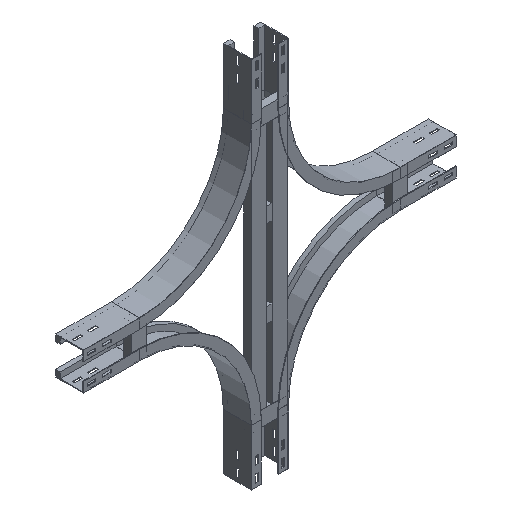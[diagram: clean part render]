
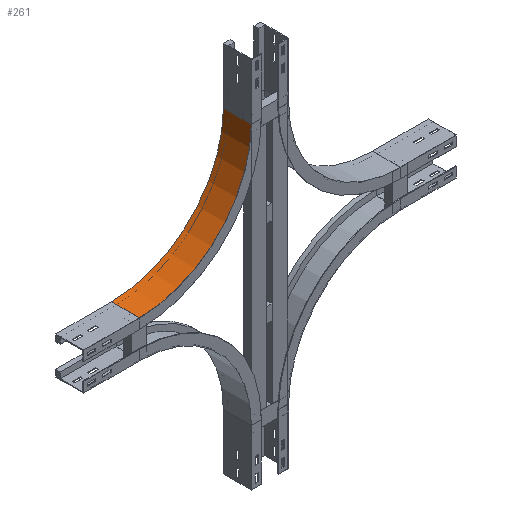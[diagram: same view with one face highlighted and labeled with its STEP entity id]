
A CAD part, isometric view. The second image highlights one B-rep face of the part: STEP entity #261.
In plain terms, the highlighted cylindrical face has radius 300 mm (diameter 600 mm), a partial arc.
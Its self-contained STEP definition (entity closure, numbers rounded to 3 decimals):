
#6 = DIRECTION ( 'NONE',  ( 0., 1., 0. ) ) ;
#10 = DIRECTION ( 'NONE',  ( 0., 0., -1. ) ) ;
#45 = CARTESIAN_POINT ( 'NONE',  ( 0., 0., -150. ) ) ;
#56 = EDGE_LOOP ( 'NONE', ( #564, #1505, #1804, #1755 ) ) ;
#261 = ADVANCED_FACE ( 'NONE', ( #2094 ), #346, .F. ) ;
#327 = CARTESIAN_POINT ( 'NONE',  ( 300., 0., -450. ) ) ;
#346 = CYLINDRICAL_SURFACE ( 'NONE', #615, 300. ) ;
#564 = ORIENTED_EDGE ( 'NONE', *, *, #2318, .F. ) ;
#608 = CARTESIAN_POINT ( 'NONE',  ( 0., 0., -150. ) ) ;
#615 = AXIS2_PLACEMENT_3D ( 'NONE', #1918, #947, #10 ) ;
#749 = AXIS2_PLACEMENT_3D ( 'NONE', #2272, #2087, #1517 ) ;
#758 = LINE ( 'NONE', #1523, #1421 ) ;
#764 = VERTEX_POINT ( 'NONE', #327 ) ;
#838 = EDGE_CURVE ( 'NONE', #1529, #764, #1623, .T. ) ;
#947 = DIRECTION ( 'NONE',  ( 0., -1., 0. ) ) ;
#1154 = EDGE_CURVE ( 'NONE', #1529, #1209, #1184, .T. ) ;
#1184 = LINE ( 'NONE', #45, #1902 ) ;
#1209 = VERTEX_POINT ( 'NONE', #2253 ) ;
#1421 = VECTOR ( 'NONE', #6, 1000. ) ;
#1464 = EDGE_CURVE ( 'NONE', #764, #2204, #758, .T. ) ;
#1496 = CIRCLE ( 'NONE', #749, 300. ) ;
#1505 = ORIENTED_EDGE ( 'NONE', *, *, #1154, .F. ) ;
#1517 = DIRECTION ( 'NONE',  ( -1., 0., 0. ) ) ;
#1523 = CARTESIAN_POINT ( 'NONE',  ( 300., 0., -450. ) ) ;
#1529 = VERTEX_POINT ( 'NONE', #608 ) ;
#1623 = CIRCLE ( 'NONE', #2309, 300. ) ;
#1746 = DIRECTION ( 'NONE',  ( 0., 1., 0. ) ) ;
#1755 = ORIENTED_EDGE ( 'NONE', *, *, #1464, .T. ) ;
#1804 = ORIENTED_EDGE ( 'NONE', *, *, #838, .T. ) ;
#1882 = CARTESIAN_POINT ( 'NONE',  ( 300., 75., -450. ) ) ;
#1902 = VECTOR ( 'NONE', #1746, 1000. ) ;
#1918 = CARTESIAN_POINT ( 'NONE',  ( 300., 0., -150. ) ) ;
#1926 = CARTESIAN_POINT ( 'NONE',  ( 300., 0., -150. ) ) ;
#2087 = DIRECTION ( 'NONE',  ( 0., -1., 0. ) ) ;
#2094 = FACE_OUTER_BOUND ( 'NONE', #56, .T. ) ;
#2131 = DIRECTION ( 'NONE',  ( -1., 0., 0. ) ) ;
#2204 = VERTEX_POINT ( 'NONE', #1882 ) ;
#2253 = CARTESIAN_POINT ( 'NONE',  ( 0., 75., -150. ) ) ;
#2272 = CARTESIAN_POINT ( 'NONE',  ( 300., 75., -150. ) ) ;
#2309 = AXIS2_PLACEMENT_3D ( 'NONE', #1926, #2342, #2131 ) ;
#2318 = EDGE_CURVE ( 'NONE', #1209, #2204, #1496, .T. ) ;
#2342 = DIRECTION ( 'NONE',  ( 0., -1., 0. ) ) ;
